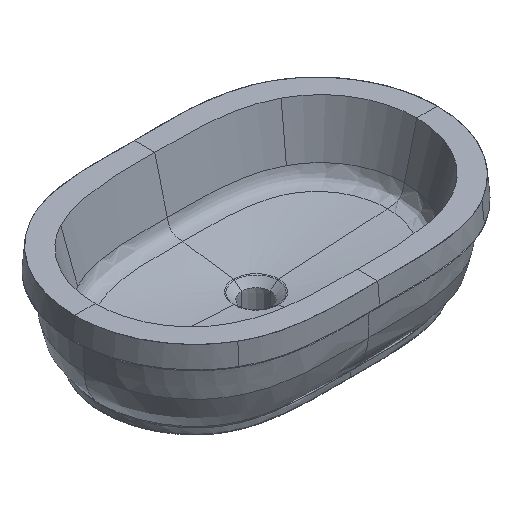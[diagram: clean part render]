
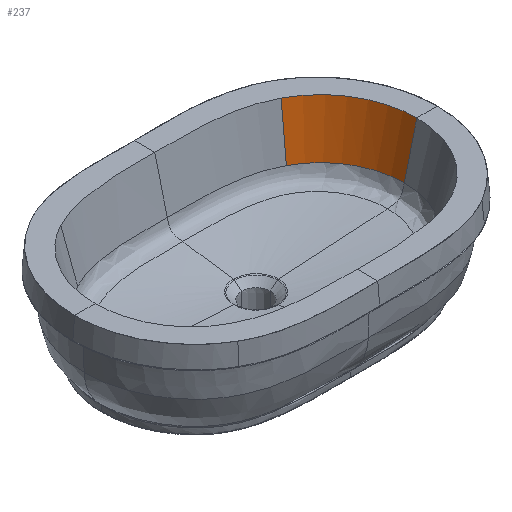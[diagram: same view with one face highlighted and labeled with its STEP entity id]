
A CAD part, isometric view. The second image highlights one B-rep face of the part: STEP entity #237.
In plain terms, the highlighted free-form (B-spline) face has degree [3, 3] with [8, 10] control points.
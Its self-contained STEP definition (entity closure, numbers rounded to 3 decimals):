
#161=LINE('',#3143,#195);
#162=LINE('',#3232,#196);
#195=VECTOR('',#1571,1.);
#196=VECTOR('',#1572,1.);
#237=ADVANCED_FACE('',(#359),#304,.F.);
#304=B_SPLINE_SURFACE_WITH_KNOTS('',3,3,((#3233,#3234,#3235,#3236,#3237,
#3238,#3239,#3240,#3241,#3242),(#3243,#3244,#3245,#3246,#3247,#3248,#3249,
#3250,#3251,#3252),(#3253,#3254,#3255,#3256,#3257,#3258,#3259,#3260,#3261,
#3262),(#3263,#3264,#3265,#3266,#3267,#3268,#3269,#3270,#3271,#3272),(#3273,
#3274,#3275,#3276,#3277,#3278,#3279,#3280,#3281,#3282),(#3283,#3284,#3285,
#3286,#3287,#3288,#3289,#3290,#3291,#3292),(#3293,#3294,#3295,#3296,#3297,
#3298,#3299,#3300,#3301,#3302),(#3303,#3304,#3305,#3306,#3307,#3308,#3309,
#3310,#3311,#3312)),.UNSPECIFIED.,.F.,.F.,.F.,(4,1,1,1,1,4),(4,2,2,2,4),
(0.,0.199,0.2,0.2,0.273,1.),(0.,0.457,
0.686,0.915,1.),.UNSPECIFIED.);
#359=FACE_OUTER_BOUND('',#442,.T.);
#442=EDGE_LOOP('',(#611,#612,#613,#614));
#611=ORIENTED_EDGE('',*,*,#1196,.F.);
#612=ORIENTED_EDGE('',*,*,#1195,.T.);
#613=ORIENTED_EDGE('',*,*,#1197,.T.);
#614=ORIENTED_EDGE('',*,*,#1198,.F.);
#1023=VERTEX_POINT('',#3131);
#1024=VERTEX_POINT('',#3142);
#1025=VERTEX_POINT('',#3222);
#1026=VERTEX_POINT('',#3231);
#1195=EDGE_CURVE('',#1023,#1024,#161,.T.);
#1196=EDGE_CURVE('',#1023,#1025,#1403,.T.);
#1197=EDGE_CURVE('',#1024,#1026,#1404,.T.);
#1198=EDGE_CURVE('',#1025,#1026,#162,.T.);
#1403=B_SPLINE_CURVE_WITH_KNOTS('',3,(#3214,#3215,#3216,#3217,#3218,#3219,
#3220,#3221),.UNSPECIFIED.,.F.,.F.,(4,2,2,4),(0.,0.25,0.5,
1.),.UNSPECIFIED.);
#1404=B_SPLINE_CURVE_WITH_KNOTS('',3,(#3223,#3224,#3225,#3226,#3227,#3228,
#3229,#3230),.UNSPECIFIED.,.F.,.F.,(4,2,2,4),(0.,0.25,0.5,
1.),.UNSPECIFIED.);
#1571=DIRECTION('',(-0.113,-0.214,-0.97));
#1572=DIRECTION('',(-0.242,0.,-0.97));
#3131=CARTESIAN_POINT('',(184.933,142.756,-5.));
#3142=CARTESIAN_POINT('',(175.187,124.219,-88.992));
#3143=CARTESIAN_POINT('',(185.455,143.75,-0.498));
#3214=CARTESIAN_POINT('',(184.933,142.756,-5.));
#3215=CARTESIAN_POINT('',(198.115,135.826,-5.));
#3216=CARTESIAN_POINT('',(210.019,127.177,-5.));
#3217=CARTESIAN_POINT('',(230.904,107.156,-5.));
#3218=CARTESIAN_POINT('',(239.884,95.784,-5.));
#3219=CARTESIAN_POINT('',(261.882,58.661,-5.));
#3220=CARTESIAN_POINT('',(269.957,29.9,-5.));
#3221=CARTESIAN_POINT('',(269.957,0.,-5.));
#3222=CARTESIAN_POINT('',(269.957,0.,-5.));
#3223=CARTESIAN_POINT('',(175.188,124.221,-88.991));
#3224=CARTESIAN_POINT('',(186.613,118.214,-88.991));
#3225=CARTESIAN_POINT('',(196.917,110.728,-88.991));
#3226=CARTESIAN_POINT('',(215.022,93.371,-88.991));
#3227=CARTESIAN_POINT('',(222.822,83.498,-88.991));
#3228=CARTESIAN_POINT('',(241.957,51.206,-88.991));
#3229=CARTESIAN_POINT('',(249.015,26.122,-88.991));
#3230=CARTESIAN_POINT('',(249.015,0.,-88.991));
#3231=CARTESIAN_POINT('',(249.015,0.,-88.991));
#3232=CARTESIAN_POINT('',(246.246,0.,-100.098));
#3233=CARTESIAN_POINT('',(289.775,0.,74.488));
#3234=CARTESIAN_POINT('',(289.775,33.475,74.488));
#3235=CARTESIAN_POINT('',(280.738,65.715,74.488));
#3236=CARTESIAN_POINT('',(256.03,107.411,74.488));
#3237=CARTESIAN_POINT('',(245.933,120.201,74.488));
#3238=CARTESIAN_POINT('',(222.419,142.743,74.488));
#3239=CARTESIAN_POINT('',(209.001,152.493,74.488));
#3240=CARTESIAN_POINT('',(188.637,163.2,74.488));
#3241=CARTESIAN_POINT('',(182.921,165.832,74.488));
#3242=CARTESIAN_POINT('',(177.205,168.465,74.488));
#3243=CARTESIAN_POINT('',(285.236,0.,56.282));
#3244=CARTESIAN_POINT('',(285.236,32.657,56.282));
#3245=CARTESIAN_POINT('',(276.419,64.1,56.282));
#3246=CARTESIAN_POINT('',(252.332,104.748,56.282));
#3247=CARTESIAN_POINT('',(242.491,117.214,56.282));
#3248=CARTESIAN_POINT('',(219.579,139.178,56.282));
#3249=CARTESIAN_POINT('',(206.508,148.676,56.282));
#3250=CARTESIAN_POINT('',(186.666,159.107,56.282));
#3251=CARTESIAN_POINT('',(181.097,161.673,56.282));
#3252=CARTESIAN_POINT('',(175.527,164.238,56.282));
#3253=CARTESIAN_POINT('',(280.68,0.,38.01));
#3254=CARTESIAN_POINT('',(280.68,31.835,38.01));
#3255=CARTESIAN_POINT('',(272.085,62.478,38.01));
#3256=CARTESIAN_POINT('',(248.621,102.076,38.01));
#3257=CARTESIAN_POINT('',(239.036,114.215,38.01));
#3258=CARTESIAN_POINT('',(216.729,135.6,38.01));
#3259=CARTESIAN_POINT('',(204.005,144.844,38.01));
#3260=CARTESIAN_POINT('',(184.688,155.,38.01));
#3261=CARTESIAN_POINT('',(179.266,157.498,38.01));
#3262=CARTESIAN_POINT('',(173.843,159.996,38.01));
#3263=CARTESIAN_POINT('',(276.123,0.,19.731));
#3264=CARTESIAN_POINT('',(276.123,31.013,19.731));
#3265=CARTESIAN_POINT('',(267.749,60.856,19.731));
#3266=CARTESIAN_POINT('',(244.907,99.402,19.731));
#3267=CARTESIAN_POINT('',(235.58,111.215,19.731));
#3268=CARTESIAN_POINT('',(213.877,132.02,19.731));
#3269=CARTESIAN_POINT('',(201.502,141.012,19.731));
#3270=CARTESIAN_POINT('',(182.71,150.892,19.731));
#3271=CARTESIAN_POINT('',(177.434,153.322,19.731));
#3272=CARTESIAN_POINT('',(172.158,155.752,19.731));
#3273=CARTESIAN_POINT('',(274.43,0.,12.941));
#3274=CARTESIAN_POINT('',(274.43,30.707,12.941));
#3275=CARTESIAN_POINT('',(266.138,60.253,12.941));
#3276=CARTESIAN_POINT('',(243.528,98.409,12.941));
#3277=CARTESIAN_POINT('',(234.296,110.1,12.941));
#3278=CARTESIAN_POINT('',(212.818,130.69,12.941));
#3279=CARTESIAN_POINT('',(200.572,139.588,12.941));
#3280=CARTESIAN_POINT('',(181.975,149.365,12.941));
#3281=CARTESIAN_POINT('',(176.753,151.77,12.941));
#3282=CARTESIAN_POINT('',(171.532,154.176,12.941));
#3283=CARTESIAN_POINT('',(256.198,0.,-60.181));
#3284=CARTESIAN_POINT('',(256.198,27.418,-60.181));
#3285=CARTESIAN_POINT('',(248.792,53.763,-60.181));
#3286=CARTESIAN_POINT('',(228.674,87.712,-60.181));
#3287=CARTESIAN_POINT('',(220.47,98.099,-60.181));
#3288=CARTESIAN_POINT('',(201.411,116.37,-60.181));
#3289=CARTESIAN_POINT('',(190.558,124.255,-60.181));
#3290=CARTESIAN_POINT('',(174.059,132.929,-60.181));
#3291=CARTESIAN_POINT('',(169.426,135.064,-60.181));
#3292=CARTESIAN_POINT('',(164.793,137.199,-60.181));
#3293=CARTESIAN_POINT('',(237.969,0.,-133.298));
#3294=CARTESIAN_POINT('',(237.969,24.129,-133.298));
#3295=CARTESIAN_POINT('',(231.447,47.273,-133.298));
#3296=CARTESIAN_POINT('',(213.822,77.017,-133.298));
#3297=CARTESIAN_POINT('',(206.644,86.099,-133.298));
#3298=CARTESIAN_POINT('',(190.005,102.051,-133.298));
#3299=CARTESIAN_POINT('',(180.545,108.924,-133.298));
#3300=CARTESIAN_POINT('',(166.145,116.494,-133.298));
#3301=CARTESIAN_POINT('',(162.099,118.359,-133.298));
#3302=CARTESIAN_POINT('',(158.053,120.223,-133.298));
#3303=CARTESIAN_POINT('',(221.413,0.,-199.698));
#3304=CARTESIAN_POINT('',(221.413,21.143,-199.698));
#3305=CARTESIAN_POINT('',(215.696,41.38,-199.698));
#3306=CARTESIAN_POINT('',(200.334,67.305,-199.698));
#3307=CARTESIAN_POINT('',(194.089,75.201,-199.698));
#3308=CARTESIAN_POINT('',(179.647,89.047,-199.698));
#3309=CARTESIAN_POINT('',(171.452,95.,-199.698));
#3310=CARTESIAN_POINT('',(158.957,101.569,-199.698));
#3311=CARTESIAN_POINT('',(155.445,103.188,-199.698));
#3312=CARTESIAN_POINT('',(151.933,104.807,-199.698));
